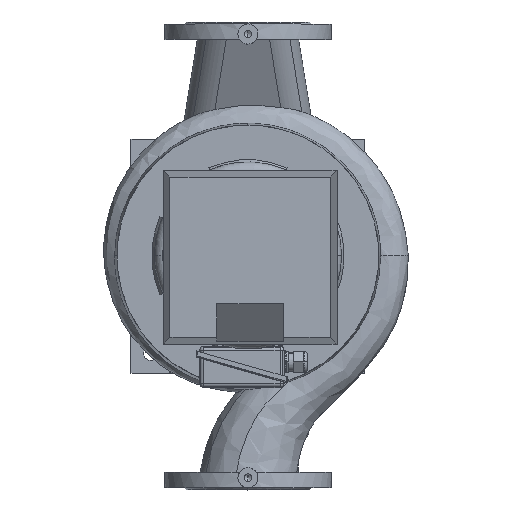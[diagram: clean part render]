
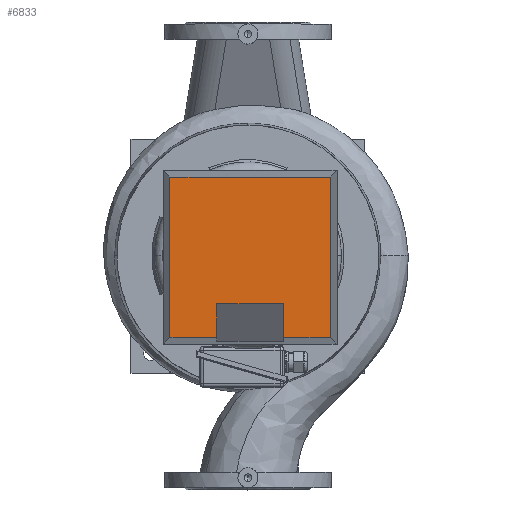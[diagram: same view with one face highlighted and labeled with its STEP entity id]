
A CAD part, top view. The second image highlights one B-rep face of the part: STEP entity #6833.
In plain terms, the highlighted planar face has unit normal (0, 0, 1) as drawn and (0, 1, 0) by its records, which use the part's own axes.
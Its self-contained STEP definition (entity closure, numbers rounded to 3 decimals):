
#6833=ADVANCED_FACE('',(#13141),#13142,.T.);
#6843=EDGE_CURVE('',#13157,#13154,#13158,.T.);
#13141=FACE_OUTER_BOUND('',#26563,.T.);
#13142=PLANE('',#26564);
#13154=VERTEX_POINT('',#26577);
#13157=VERTEX_POINT('',#26582);
#13158=LINE('',#26583,#26584);
#26563=EDGE_LOOP('',(#35749,#35750,#35751,#35752,#35753,#35754,#35755,#35756));
#26564=AXIS2_PLACEMENT_3D('',#35757,#35758,#35759);
#26577=CARTESIAN_POINT('',(-50.0,90.0,199.485));
#26582=CARTESIAN_POINT('',(-50.0,90.0,250.0));
#26583=CARTESIAN_POINT('',(-50.0,90.0,127.834));
#26584=VECTOR('',#35785,1.0);
#35749=ORIENTED_EDGE('',*,*,#37100,.T.);
#35750=ORIENTED_EDGE('',*,*,#37106,.F.);
#35751=ORIENTED_EDGE('',*,*,#37114,.F.);
#35752=ORIENTED_EDGE('',*,*,#37116,.F.);
#35753=ORIENTED_EDGE('',*,*,#37108,.F.);
#35754=ORIENTED_EDGE('',*,*,#37102,.F.);
#35755=ORIENTED_EDGE('',*,*,#6843,.T.);
#35756=ORIENTED_EDGE('',*,*,#37096,.T.);
#35757=CARTESIAN_POINT('',(0.0,90.0,0.0));
#35758=DIRECTION('',(0.0,1.0,-0.0));
#35759=DIRECTION('',(-1.0,0.0,0.0));
#35785=DIRECTION('',(0.0,-0.0,-1.0));
#37096=EDGE_CURVE('',#13154,#38679,#38682,.T.);
#37100=EDGE_CURVE('',#38679,#38685,#38687,.T.);
#37102=EDGE_CURVE('',#13157,#38689,#38690,.T.);
#37106=EDGE_CURVE('',#38695,#38685,#38697,.T.);
#37108=EDGE_CURVE('',#38689,#38699,#38700,.T.);
#37114=EDGE_CURVE('',#38705,#38695,#38707,.T.);
#37116=EDGE_CURVE('',#38699,#38705,#38709,.T.);
#38679=VERTEX_POINT('',#41633);
#38682=LINE('',#41637,#41638);
#38685=VERTEX_POINT('',#41642);
#38687=LINE('',#41645,#41646);
#38689=VERTEX_POINT('',#41648);
#38690=LINE('',#41649,#41650);
#38695=VERTEX_POINT('',#41657);
#38697=LINE('',#41660,#41661);
#38699=VERTEX_POINT('',#41663);
#38700=LINE('',#41664,#41665);
#38705=VERTEX_POINT('',#41673);
#38707=LINE('',#41676,#41677);
#38709=LINE('',#41679,#41680);
#41633=CARTESIAN_POINT('',(50.0,90.0,199.485));
#41637=CARTESIAN_POINT('',(-25.0,90.0,199.485));
#41638=VECTOR('',#42531,1.0);
#41642=CARTESIAN_POINT('',(50.0,90.0,250.0));
#41645=CARTESIAN_POINT('',(50.0,90.0,127.834));
#41646=VECTOR('',#42534,1.0);
#41648=CARTESIAN_POINT('',(-120.0,90.0,250.0));
#41649=CARTESIAN_POINT('',(65.0,90.0,250.0));
#41650=VECTOR('',#42535,1.0);
#41657=CARTESIAN_POINT('',(120.0,90.0,250.0));
#41660=CARTESIAN_POINT('',(65.0,90.0,250.0));
#41661=VECTOR('',#42539,1.0);
#41663=CARTESIAN_POINT('',(-120.0,90.0,10.0));
#41664=CARTESIAN_POINT('',(-120.0,90.0,0.0));
#41665=VECTOR('',#42540,1.0);
#41673=CARTESIAN_POINT('',(120.0,90.0,10.0));
#41676=CARTESIAN_POINT('',(120.0,90.0,0.0));
#41677=VECTOR('',#42545,1.0);
#41679=CARTESIAN_POINT('',(65.0,90.0,10.0));
#41680=VECTOR('',#42546,1.0);
#42531=DIRECTION('',(1.0,0.0,0.0));
#42534=DIRECTION('',(-0.0,0.0,1.0));
#42535=DIRECTION('',(-1.0,0.0,-0.0));
#42539=DIRECTION('',(-1.0,0.0,-0.0));
#42540=DIRECTION('',(-0.0,-0.0,-1.0));
#42545=DIRECTION('',(-0.0,0.0,1.0));
#42546=DIRECTION('',(1.0,-0.0,-0.0));
